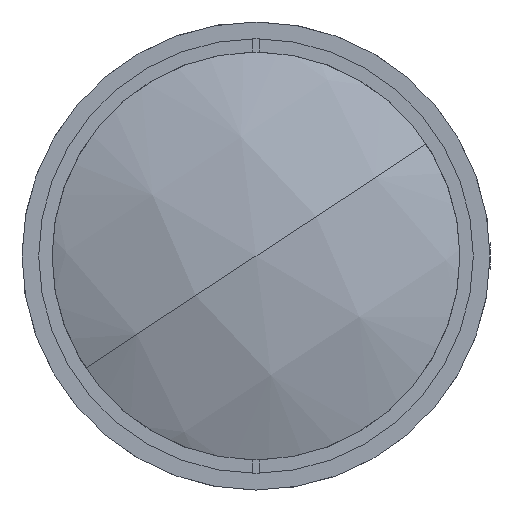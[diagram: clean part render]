
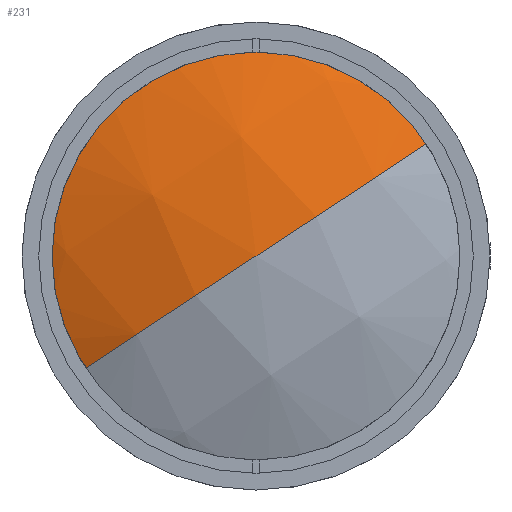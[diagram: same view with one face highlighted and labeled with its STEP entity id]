
A CAD part, left-side view. The second image highlights one B-rep face of the part: STEP entity #231.
In plain terms, the highlighted spherical face has radius 77.627 mm.
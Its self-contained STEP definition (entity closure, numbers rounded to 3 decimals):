
#231 = ADVANCED_FACE ( 'NONE', ( #15505 ), #11766, .T. ) ;
#269 = EDGE_CURVE ( 'NONE', #2529, #1857, #2476, .T. ) ;
#912 = EDGE_LOOP ( 'NONE', ( #6192, #1698, #19044 ) ) ;
#1461 = DIRECTION ( 'NONE',  ( 0., -0.836, 0.549 ) ) ;
#1574 = DIRECTION ( 'NONE',  ( 0., 0.549, 0.836 ) ) ;
#1593 = CARTESIAN_POINT ( 'NONE',  ( 78.627, 0., 0. ) ) ;
#1698 = ORIENTED_EDGE ( 'NONE', *, *, #1971, .T. ) ;
#1857 = VERTEX_POINT ( 'NONE', #4032 ) ;
#1971 = EDGE_CURVE ( 'NONE', #1857, #10398, #9957, .T. ) ;
#2476 = CIRCLE ( 'NONE', #9404, 31.5 ) ;
#2529 = VERTEX_POINT ( 'NONE', #6435 ) ;
#4032 = CARTESIAN_POINT ( 'NONE',  ( 7.678, 26.323, -17.302 ) ) ;
#6084 = DIRECTION ( 'NONE',  ( 0., -0.549, -0.836 ) ) ;
#6192 = ORIENTED_EDGE ( 'NONE', *, *, #269, .T. ) ;
#6435 = CARTESIAN_POINT ( 'NONE',  ( 7.678, -26.323, 17.302 ) ) ;
#7539 = CARTESIAN_POINT ( 'NONE',  ( 1., 0., 0. ) ) ;
#8310 = AXIS2_PLACEMENT_3D ( 'NONE', #1593, #1574, #1461 ) ;
#9156 = EDGE_CURVE ( 'NONE', #2529, #10398, #15860, .T. ) ;
#9280 = AXIS2_PLACEMENT_3D ( 'NONE', #16325, #16292, #16258 ) ;
#9404 = AXIS2_PLACEMENT_3D ( 'NONE', #20689, #20821, #21170 ) ;
#9957 = CIRCLE ( 'NONE', #9280, 77.627 ) ;
#10398 = VERTEX_POINT ( 'NONE', #7539 ) ;
#11766 = SPHERICAL_SURFACE ( 'NONE', #8310, 77.627 ) ;
#12658 = AXIS2_PLACEMENT_3D ( 'NONE', #15766, #6084, #17371 ) ;
#15505 = FACE_OUTER_BOUND ( 'NONE', #912, .T. ) ;
#15766 = CARTESIAN_POINT ( 'NONE',  ( 78.627, 0., 0. ) ) ;
#15860 = CIRCLE ( 'NONE', #12658, 77.627 ) ;
#16258 = DIRECTION ( 'NONE',  ( 0., -0.836, 0.549 ) ) ;
#16292 = DIRECTION ( 'NONE',  ( 0., 0.549, 0.836 ) ) ;
#16325 = CARTESIAN_POINT ( 'NONE',  ( 78.627, 0., 0. ) ) ;
#17371 = DIRECTION ( 'NONE',  ( 0., 0.836, -0.549 ) ) ;
#19044 = ORIENTED_EDGE ( 'NONE', *, *, #9156, .F. ) ;
#20689 = CARTESIAN_POINT ( 'NONE',  ( 7.678, 0., 0. ) ) ;
#20821 = DIRECTION ( 'NONE',  ( -1., 0., 0. ) ) ;
#21170 = DIRECTION ( 'NONE',  ( 0., 0.549, 0.836 ) ) ;
